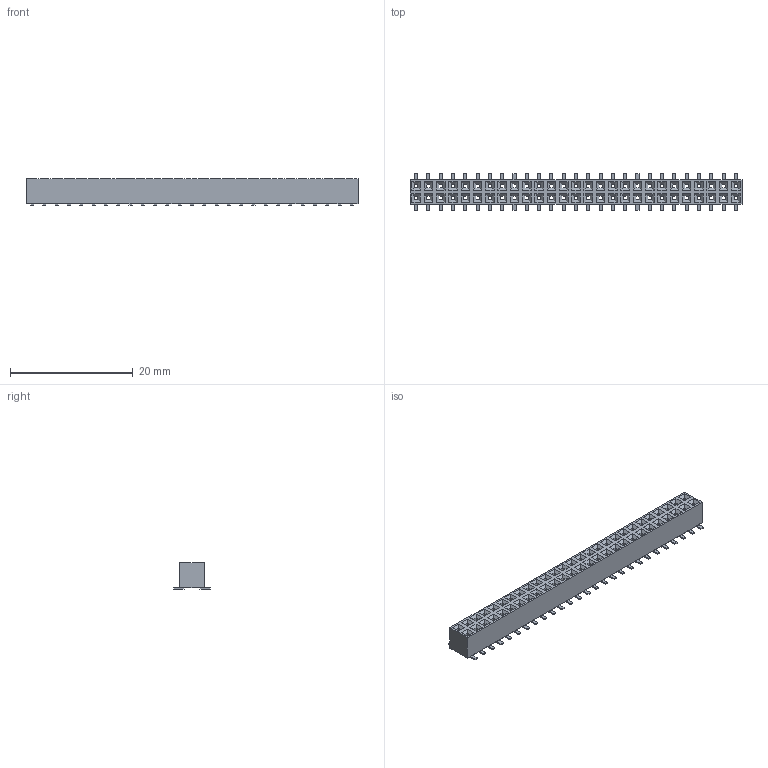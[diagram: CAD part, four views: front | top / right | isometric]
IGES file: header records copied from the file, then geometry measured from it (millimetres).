
Global section: file name: N:\GOLF_VI_2mm_UGII\9532XX-20X0-AR-XX\953254-2000-AR-XX.igs; native system: NX V3.0; preprocessor: UGS NX IGES V4.0; date: 20070315.095317; units: millimetre
Bounding box: 54 x 6 x 4.3 mm (x, y, z)
Surface area: 1485.5 mm2 (no closed solid volume)
Topology: 0 solids, 0 shells, 708 faces, 3696 edges, 3696 vertices
Faces by surface type: bspline 708
